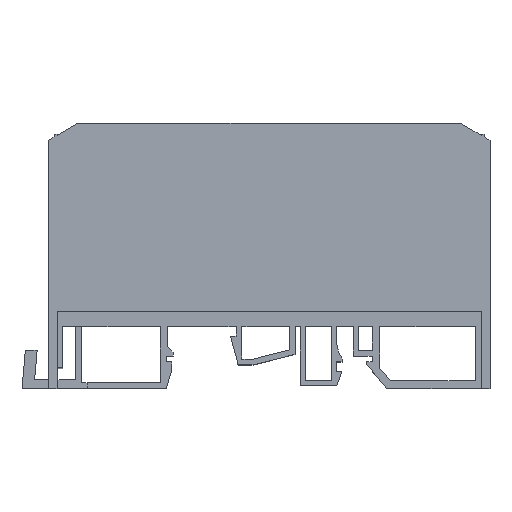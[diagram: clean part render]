
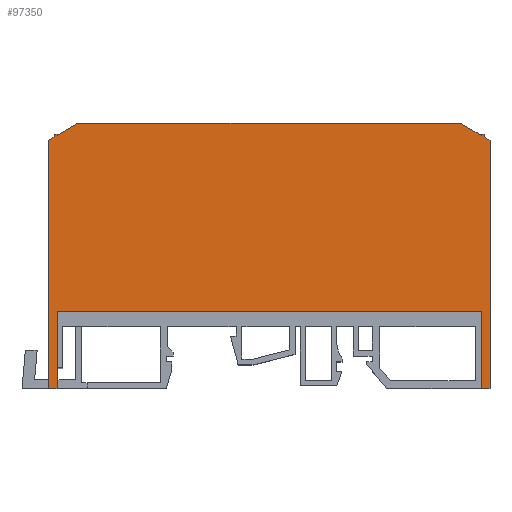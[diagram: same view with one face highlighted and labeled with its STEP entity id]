
A CAD part, top view. The second image highlights one B-rep face of the part: STEP entity #97350.
In plain terms, the highlighted planar face has unit normal (0, 0, 1) as drawn and (0, 0, -1) by its records, which use the part's own axes.
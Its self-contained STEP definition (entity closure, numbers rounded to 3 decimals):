
#71350=CARTESIAN_POINT('',(0.,19.606,16.25));
#71360=DIRECTION('',(-0.866,0.5,0.));
#71370=VECTOR('',#71360,1.);
#71380=LINE('',#71350,#71370);
#71390=CARTESIAN_POINT('',(-25.3,34.213,16.25));
#71400=VERTEX_POINT('',#71390);
#71410=CARTESIAN_POINT('',(-26.3,34.791,16.25));
#71420=VERTEX_POINT('',#71410);
#71430=EDGE_CURVE('',#71400,#71420,#71380,.T.);
#72910=CARTESIAN_POINT('',(-98.8,5.2,16.25));
#72920=VERTEX_POINT('',#72910);
#72950=CARTESIAN_POINT('',(-98.8,0.,16.25));
#72960=DIRECTION('',(0.,1.,0.));
#72970=VECTOR('',#72960,1.);
#72980=LINE('',#72950,#72970);
#72990=CARTESIAN_POINT('',(-98.8,-7.9,16.25));
#73000=VERTEX_POINT('',#72990);
#73010=EDGE_CURVE('',#73000,#72920,#72980,.T.);
#73930=CARTESIAN_POINT('',(-26.3,35.291,16.25));
#73940=VERTEX_POINT('',#73930);
#73970=CARTESIAN_POINT('',(-26.3,0.,16.25));
#73980=DIRECTION('',(0.,1.,0.));
#73990=VECTOR('',#73980,1.);
#74000=LINE('',#73970,#73990);
#74010=EDGE_CURVE('',#71420,#73940,#74000,.T.);
#78110=CARTESIAN_POINT('',(-30.3,37.1,16.25));
#78120=VERTEX_POINT('',#78110);
#78290=CARTESIAN_POINT('',(-95.3,37.1,16.25));
#78300=VERTEX_POINT('',#78290);
#78330=CARTESIAN_POINT('',(0.,37.1,16.25));
#78340=DIRECTION('',(-1.,0.,0.));
#78350=VECTOR('',#78340,1.);
#78360=LINE('',#78330,#78350);
#78370=EDGE_CURVE('',#78120,#78300,#78360,.T.);
#84900=CARTESIAN_POINT('',(-100.3,34.213,16.25));
#84910=VERTEX_POINT('',#84900);
#85290=CARTESIAN_POINT('',(-100.3,-7.9,16.25));
#85300=VERTEX_POINT('',#85290);
#85330=CARTESIAN_POINT('',(-100.3,0.,16.25));
#85340=DIRECTION('',(0.,-1.,0.));
#85350=VECTOR('',#85340,1.);
#85360=LINE('',#85330,#85350);
#85370=EDGE_CURVE('',#84910,#85300,#85360,.T.);
#87530=CARTESIAN_POINT('',(0.,92.121,16.25));
#87540=DIRECTION('',(-0.866,-0.5,0.));
#87550=VECTOR('',#87540,1.);
#87560=LINE('',#87530,#87550);
#87570=CARTESIAN_POINT('',(-99.3,34.791,16.25));
#87580=VERTEX_POINT('',#87570);
#87590=EDGE_CURVE('',#87580,#84910,#87560,.T.);
#88910=CARTESIAN_POINT('',(0.,-7.9,16.25));
#88920=DIRECTION('',(1.,0.,0.));
#88930=VECTOR('',#88920,1.);
#88940=LINE('',#88910,#88930);
#88950=EDGE_CURVE('',#85300,#73000,#88940,.T.);
#89330=CARTESIAN_POINT('',(-99.3,35.291,16.25));
#89340=VERTEX_POINT('',#89330);
#89600=CARTESIAN_POINT('',(-99.3,0.,16.25));
#89610=DIRECTION('',(0.,1.,0.));
#89620=VECTOR('',#89610,1.);
#89630=LINE('',#89600,#89620);
#89640=EDGE_CURVE('',#87580,#89340,#89630,.T.);
#90560=CARTESIAN_POINT('',(-26.8,-7.9,16.25));
#90570=VERTEX_POINT('',#90560);
#90600=CARTESIAN_POINT('',(-26.8,0.,16.25));
#90610=DIRECTION('',(0.,1.,0.));
#90620=VECTOR('',#90610,1.);
#90630=LINE('',#90600,#90620);
#90640=CARTESIAN_POINT('',(-26.8,5.2,16.25));
#90650=VERTEX_POINT('',#90640);
#90660=EDGE_CURVE('',#90570,#90650,#90630,.T.);
#94990=CARTESIAN_POINT('',(-98.8,35.079,16.25));
#95000=VERTEX_POINT('',#94990);
#95030=CARTESIAN_POINT('',(0.,92.121,16.25));
#95040=DIRECTION('',(-0.866,-0.5,0.));
#95050=VECTOR('',#95040,1.);
#95060=LINE('',#95030,#95050);
#95070=EDGE_CURVE('',#78300,#95000,#95060,.T.);
#96100=CARTESIAN_POINT('',(0.,5.2,16.25));
#96110=DIRECTION('',(-1.,0.,0.));
#96120=VECTOR('',#96110,1.);
#96130=LINE('',#96100,#96120);
#96140=EDGE_CURVE('',#90650,#72920,#96130,.T.);
#96430=CARTESIAN_POINT('',(-25.3,-7.9,16.25));
#96440=VERTEX_POINT('',#96430);
#96490=CARTESIAN_POINT('',(0.,-7.9,16.25));
#96500=DIRECTION('',(1.,0.,0.));
#96510=VECTOR('',#96500,1.);
#96520=LINE('',#96490,#96510);
#96530=EDGE_CURVE('',#90570,#96440,#96520,.T.);
#96740=CARTESIAN_POINT('',(0.,0.,16.25));
#96750=DIRECTION('',(0.,0.,1.));
#96760=DIRECTION('',(1.,0.,0.));
#96770=AXIS2_PLACEMENT_3D('',#96740,#96750,#96760);
#96780=PLANE('',#96770);
#96790=CARTESIAN_POINT('',(-25.3,0.,16.25));
#96800=DIRECTION('',(0.,1.,0.));
#96810=VECTOR('',#96800,1.);
#96820=LINE('',#96790,#96810);
#96830=EDGE_CURVE('',#96440,#71400,#96820,.T.);
#96840=ORIENTED_EDGE('',*,*,#96830,.F.);
#96850=ORIENTED_EDGE('',*,*,#71430,.F.);
#96860=ORIENTED_EDGE('',*,*,#74010,.F.);
#96870=CARTESIAN_POINT('',(0.,35.291,16.25));
#96880=DIRECTION('',(-1.,0.,0.));
#96890=VECTOR('',#96880,1.);
#96900=LINE('',#96870,#96890);
#96910=CARTESIAN_POINT('',(-26.8,35.291,16.25));
#96920=VERTEX_POINT('',#96910);
#96930=EDGE_CURVE('',#73940,#96920,#96900,.T.);
#96940=ORIENTED_EDGE('',*,*,#96930,.F.);
#96950=CARTESIAN_POINT('',(-26.8,0.,16.25));
#96960=DIRECTION('',(0.,-1.,0.));
#96970=VECTOR('',#96960,1.);
#96980=LINE('',#96950,#96970);
#96990=CARTESIAN_POINT('',(-26.8,35.079,16.25));
#97000=VERTEX_POINT('',#96990);
#97010=EDGE_CURVE('',#96920,#97000,#96980,.T.);
#97020=ORIENTED_EDGE('',*,*,#97010,.F.);
#97030=CARTESIAN_POINT('',(0.,19.606,16.25));
#97040=DIRECTION('',(-0.866,0.5,0.));
#97050=VECTOR('',#97040,1.);
#97060=LINE('',#97030,#97050);
#97070=EDGE_CURVE('',#97000,#78120,#97060,.T.);
#97080=ORIENTED_EDGE('',*,*,#97070,.F.);
#97090=ORIENTED_EDGE('',*,*,#78370,.F.);
#97100=ORIENTED_EDGE('',*,*,#95070,.F.);
#97110=CARTESIAN_POINT('',(-98.8,0.,16.25));
#97120=DIRECTION('',(0.,1.,0.));
#97130=VECTOR('',#97120,1.);
#97140=LINE('',#97110,#97130);
#97150=CARTESIAN_POINT('',(-98.8,35.291,16.25));
#97160=VERTEX_POINT('',#97150);
#97170=EDGE_CURVE('',#95000,#97160,#97140,.T.);
#97180=ORIENTED_EDGE('',*,*,#97170,.F.);
#97190=CARTESIAN_POINT('',(0.,35.291,16.25));
#97200=DIRECTION('',(-1.,0.,0.));
#97210=VECTOR('',#97200,1.);
#97220=LINE('',#97190,#97210);
#97230=EDGE_CURVE('',#97160,#89340,#97220,.T.);
#97240=ORIENTED_EDGE('',*,*,#97230,.F.);
#97250=ORIENTED_EDGE('',*,*,#89640,.T.);
#97260=ORIENTED_EDGE('',*,*,#87590,.F.);
#97270=ORIENTED_EDGE('',*,*,#85370,.F.);
#97280=ORIENTED_EDGE('',*,*,#88950,.F.);
#97290=ORIENTED_EDGE('',*,*,#73010,.F.);
#97300=ORIENTED_EDGE('',*,*,#96140,.T.);
#97310=ORIENTED_EDGE('',*,*,#90660,.T.);
#97320=ORIENTED_EDGE('',*,*,#96530,.F.);
#97330=EDGE_LOOP('',(#97320,#97310,#97300,#97290,#97280,#97270,#97260,
#97250,#97240,#97180,#97100,#97090,#97080,#97020,#96940,#96860,#96850,
#96840));
#97340=FACE_OUTER_BOUND('',#97330,.T.);
#97350=ADVANCED_FACE('',(#97340),#96780,.F.);
